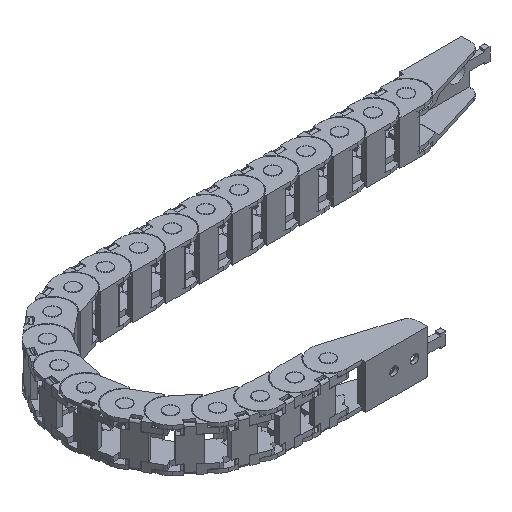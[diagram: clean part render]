
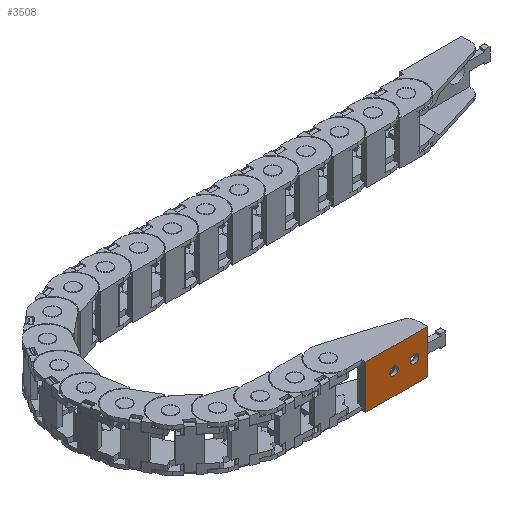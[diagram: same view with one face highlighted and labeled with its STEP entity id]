
A CAD part, isometric view. The second image highlights one B-rep face of the part: STEP entity #3508.
In plain terms, the highlighted planar face has unit normal (0, -1, 0).
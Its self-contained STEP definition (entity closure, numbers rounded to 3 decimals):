
#502=FACE_BOUND('',#7482,.T.);
#503=FACE_BOUND('',#7483,.T.);
#504=FACE_BOUND('',#7484,.T.);
#1792=PLANE('',#36117);
#3508=ADVANCED_FACE('',(#502,#503,#504),#1792,.T.);
#7482=EDGE_LOOP('',(#23993));
#7483=EDGE_LOOP('',(#23994,#23995,#23996,#23997));
#7484=EDGE_LOOP('',(#23998));
#11095=LINE('',#54838,#14753);
#11096=LINE('',#54841,#14754);
#11097=LINE('',#54843,#14755);
#11098=LINE('',#54845,#14756);
#14753=VECTOR('',#45152,1.);
#14754=VECTOR('',#45153,1.);
#14755=VECTOR('',#45154,1.);
#14756=VECTOR('',#45155,1.);
#23993=ORIENTED_EDGE('',*,*,#32147,.F.);
#23994=ORIENTED_EDGE('',*,*,#32148,.T.);
#23995=ORIENTED_EDGE('',*,*,#32149,.F.);
#23996=ORIENTED_EDGE('',*,*,#32150,.F.);
#23997=ORIENTED_EDGE('',*,*,#32151,.F.);
#23998=ORIENTED_EDGE('',*,*,#32152,.T.);
#27469=VERTEX_POINT('',#54837);
#27470=VERTEX_POINT('',#54839);
#27471=VERTEX_POINT('',#54840);
#27472=VERTEX_POINT('',#54842);
#27473=VERTEX_POINT('',#54844);
#27474=VERTEX_POINT('',#54847);
#32147=EDGE_CURVE('',#27469,#27469,#33373,.T.);
#32148=EDGE_CURVE('',#27470,#27471,#11095,.T.);
#32149=EDGE_CURVE('',#27472,#27471,#11096,.T.);
#32150=EDGE_CURVE('',#27473,#27472,#11097,.T.);
#32151=EDGE_CURVE('',#27470,#27473,#11098,.T.);
#32152=EDGE_CURVE('',#27474,#27474,#33374,.T.);
#33373=CIRCLE('',#36115,1.6);
#33374=CIRCLE('',#36116,1.6);
#36115=AXIS2_PLACEMENT_3D('',#54836,#45150,#45151);
#36116=AXIS2_PLACEMENT_3D('',#54846,#45156,#45157);
#36117=AXIS2_PLACEMENT_3D('',#54848,#45158,#45159);
#45150=DIRECTION('',(0.,-1.,0.));
#45151=DIRECTION('',(0.,0.,-1.));
#45152=DIRECTION('',(-1.,0.,0.));
#45153=DIRECTION('',(0.,0.,1.));
#45154=DIRECTION('',(-1.,0.,0.));
#45155=DIRECTION('',(0.,0.,-1.));
#45156=DIRECTION('',(0.,1.,0.));
#45157=DIRECTION('',(0.,0.,-1.));
#45158=DIRECTION('',(0.,-1.,0.));
#45159=DIRECTION('',(0.,0.,-1.));
#54836=CARTESIAN_POINT('',(45.,-26.5,0.));
#54837=CARTESIAN_POINT('',(45.,-26.5,-1.6));
#54838=CARTESIAN_POINT('',(50.,-26.5,8.5));
#54839=CARTESIAN_POINT('',(50.,-26.5,8.5));
#54840=CARTESIAN_POINT('',(26.,-26.5,8.5));
#54841=CARTESIAN_POINT('',(26.,-26.5,-8.5));
#54842=CARTESIAN_POINT('',(26.,-26.5,-8.5));
#54843=CARTESIAN_POINT('',(50.,-26.5,-8.5));
#54844=CARTESIAN_POINT('',(50.,-26.5,-8.5));
#54845=CARTESIAN_POINT('',(50.,-26.5,8.5));
#54846=CARTESIAN_POINT('',(37.,-26.5,0.));
#54847=CARTESIAN_POINT('',(37.,-26.5,-1.6));
#54848=CARTESIAN_POINT('',(50.,-26.5,0.));
